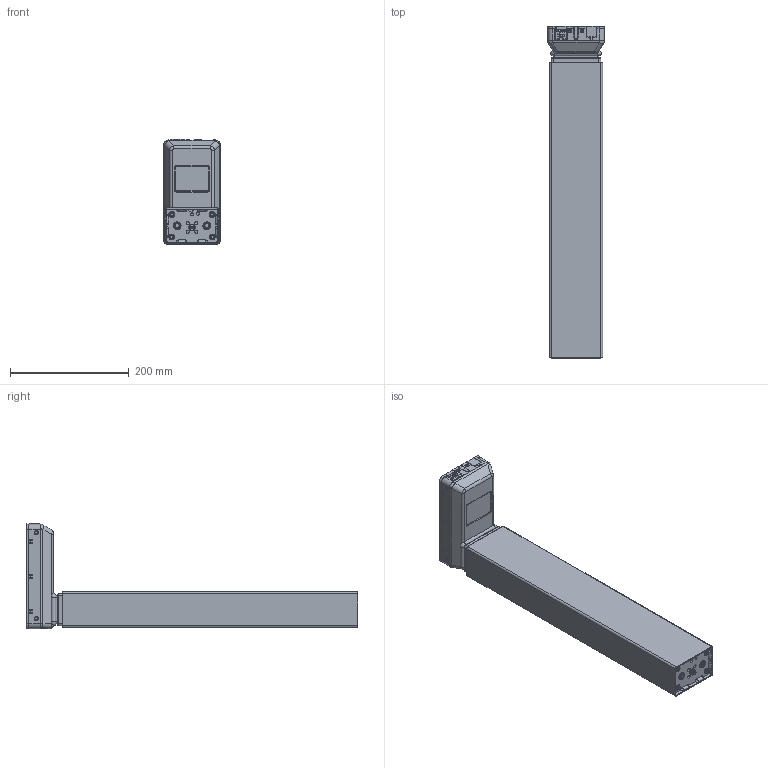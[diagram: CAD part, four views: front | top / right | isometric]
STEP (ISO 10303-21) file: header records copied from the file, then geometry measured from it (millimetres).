
FILE_DESCRIPTION((''),'2;1');
FILE_NAME('1064W8901_ASM_ASM','2020-12-21T11:17:22',('hga'),(''),'CREO PARAMETRIC BY PTC INC, 2019344','CREO PARAMETRIC BY PTC INC, 2019344','');
FILE_SCHEMA(('AUTOMOTIVE_DESIGN { 1 0 10303 214 1 1 1 1 }'));
Length unit declared in the file: millimetre
Products named in the file (8): PRT0001; PRT0002; PRT0003; PRT0004; 1064W8901_TOP_1_ASM; 4006; 4007; 1064W8901_ASM_ASM
Assembly tree (7 placements, depth 3):
  1064W8901_ASM_ASM
    1064W8901_TOP_1_ASM
      PRT0001
      PRT0002
      PRT0003
      PRT0004
    4006
    4007
Bounding box: 96.5 x 560 x 178.6 mm (x, y, z)
Volume: 7280612.7 mm3; surface area: 491793.2 mm2
Topology: 6 solids, 11 shells, 1061 faces, 2917 edges, 1901 vertices
Faces by surface type: plane 456, cylinder 417, torus 94, bspline 62, cone 18, sphere 14
Entity records: 41019 total; most frequent: CARTESIAN_POINT 12590, ORIENTED_EDGE 5802, DIRECTION 5567, EDGE_CURVE 2901, AXIS2_PLACEMENT_3D 2053, VERTEX_POINT 1901, VECTOR 1461, LINE 1461
